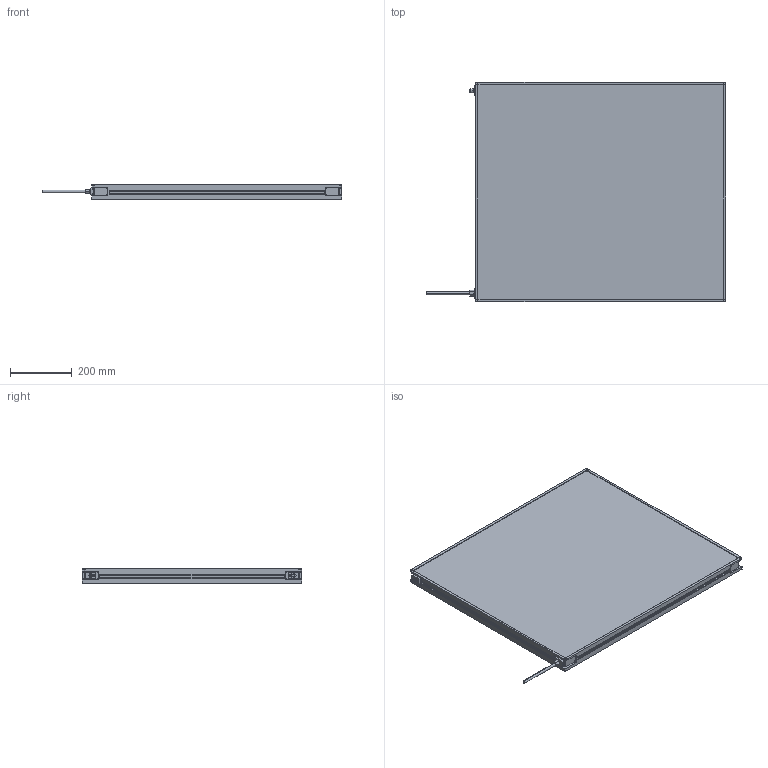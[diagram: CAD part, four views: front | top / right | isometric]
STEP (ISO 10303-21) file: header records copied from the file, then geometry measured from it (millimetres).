
FILE_DESCRIPTION (( 'STEP AP214' ), '1' );
FILE_NAME ('MBACK-xxxx-xxx-M1A2_CLIENT700x800.STEP', '2022-04-01T11:50:15', ( '' ), ( '' ), 'SwSTEP 2.0', 'SolidWorks 2020', '' );
FILE_SCHEMA (( 'AUTOMOTIVE_DESIGN' ));
Length unit declared in the file: millimetre
Products named in the file (1): MBACK-xxxx-xxx-M1A2_CLIENT700x800
Bounding box: 967.4 x 708 x 45.5 mm (x, y, z)
Volume: 23827684.9 mm3; surface area: 1351419.1 mm2
Topology: 1 solids, 1 shells, 470 faces, 1210 edges, 804 vertices
Faces by surface type: plane 265, cylinder 117, bspline 80, cone 8
Entity records: 18046 total; most frequent: CARTESIAN_POINT 6837, ORIENTED_EDGE 2420, DIRECTION 2082, EDGE_CURVE 1210, VERTEX_POINT 804, LINE 800, VECTOR 800, AXIS2_PLACEMENT_3D 641
